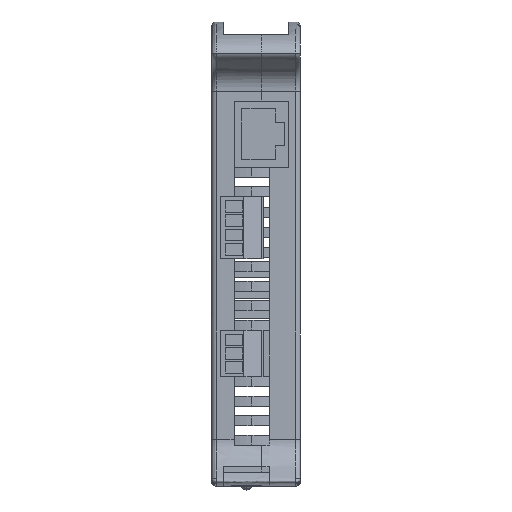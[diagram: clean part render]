
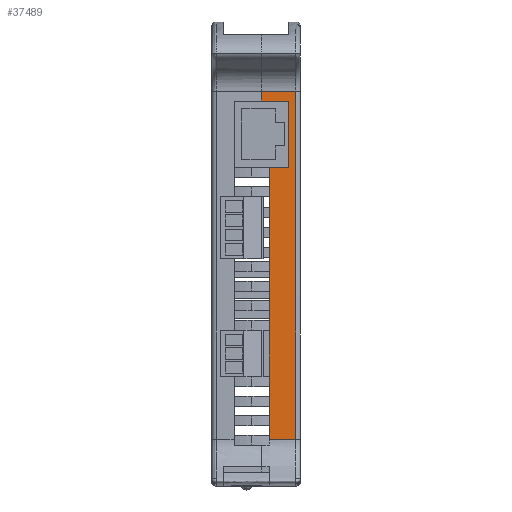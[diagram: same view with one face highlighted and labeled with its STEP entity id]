
A CAD part, left-side view. The second image highlights one B-rep face of the part: STEP entity #37489.
In plain terms, the highlighted planar face has unit normal (-1, 0, 0) as drawn and (0, 0, -1) by its records, which use the part's own axes.
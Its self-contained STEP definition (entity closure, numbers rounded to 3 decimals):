
#41 = CARTESIAN_POINT ( 'NONE',  ( 0., 3., -41.5 ) ) ;
#403 = CARTESIAN_POINT ( 'NONE',  ( -39.238, 3., -41.5 ) ) ;
#458 = EDGE_CURVE ( 'NONE', #3624, #40399, #15854, .T. ) ;
#856 = EDGE_CURVE ( 'NONE', #39176, #17218, #29270, .T. ) ;
#2243 = ORIENTED_EDGE ( 'NONE', *, *, #11189, .T. ) ;
#2428 = DIRECTION ( 'NONE',  ( 0., 1., 0. ) ) ;
#3624 = VERTEX_POINT ( 'NONE', #38248 ) ;
#4318 = ORIENTED_EDGE ( 'NONE', *, *, #30282, .F. ) ;
#4527 = CARTESIAN_POINT ( 'NONE',  ( 0., 8., -41.5 ) ) ;
#5301 = CARTESIAN_POINT ( 'NONE',  ( 47.5, 5.625, -41.5 ) ) ;
#5411 = CARTESIAN_POINT ( 'NONE',  ( -41.722, 5.625, -41.5 ) ) ;
#6085 = EDGE_LOOP ( 'NONE', ( #12357, #9765, #19729, #40753, #4318, #25740, #25453, #2243 ) ) ;
#6093 = EDGE_CURVE ( 'NONE', #40399, #29053, #21497, .T. ) ;
#6497 = CARTESIAN_POINT ( 'NONE',  ( 47.5, 1.25, -41.5 ) ) ;
#6573 = FACE_OUTER_BOUND ( 'NONE', #6085, .T. ) ;
#6604 = DIRECTION ( 'NONE',  ( 1., 0., 0. ) ) ;
#7594 = VECTOR ( 'NONE', #2428, 1000. ) ;
#8380 = DIRECTION ( 'NONE',  ( 0., -1., 0. ) ) ;
#9765 = ORIENTED_EDGE ( 'NONE', *, *, #19954, .T. ) ;
#10114 = DIRECTION ( 'NONE',  ( -1., 0., 0. ) ) ;
#10342 = EDGE_CURVE ( 'NONE', #11258, #39176, #21524, .T. ) ;
#11189 = EDGE_CURVE ( 'NONE', #11258, #29412, #28405, .T. ) ;
#11258 = VERTEX_POINT ( 'NONE', #12300 ) ;
#11458 = LINE ( 'NONE', #38657, #14845 ) ;
#11541 = DIRECTION ( 'NONE',  ( 1., 0., 0. ) ) ;
#12300 = CARTESIAN_POINT ( 'NONE',  ( -41.722, 10., -41.5 ) ) ;
#12357 = ORIENTED_EDGE ( 'NONE', *, *, #17370, .T. ) ;
#12964 = DIRECTION ( 'NONE',  ( 0., 1., 0. ) ) ;
#12995 = CARTESIAN_POINT ( 'NONE',  ( 47.5, 8., -41.5 ) ) ;
#13626 = DIRECTION ( 'NONE',  ( 0., 0., -1. ) ) ;
#14061 = PLANE ( 'NONE',  #38754 ) ;
#14530 = DIRECTION ( 'NONE',  ( 1., 0., 0. ) ) ;
#14845 = VECTOR ( 'NONE', #8380, 1000. ) ;
#15477 = VECTOR ( 'NONE', #12964, 1000. ) ;
#15854 = LINE ( 'NONE', #33094, #15477 ) ;
#17218 = VERTEX_POINT ( 'NONE', #6497 ) ;
#17370 = EDGE_CURVE ( 'NONE', #29412, #18559, #11458, .T. ) ;
#18559 = VERTEX_POINT ( 'NONE', #403 ) ;
#18742 = LINE ( 'NONE', #5301, #7594 ) ;
#18832 = CARTESIAN_POINT ( 'NONE',  ( -22.238, 8., -41.5 ) ) ;
#19548 = CARTESIAN_POINT ( 'NONE',  ( 0., 1.25, -41.5 ) ) ;
#19729 = ORIENTED_EDGE ( 'NONE', *, *, #458, .T. ) ;
#19817 = CARTESIAN_POINT ( 'NONE',  ( -39.238, 10., -41.5 ) ) ;
#19954 = EDGE_CURVE ( 'NONE', #18559, #3624, #37279, .T. ) ;
#21497 = LINE ( 'NONE', #4527, #41340 ) ;
#21524 = LINE ( 'NONE', #5411, #37809 ) ;
#25315 = CARTESIAN_POINT ( 'NONE',  ( 0., 10., -41.5 ) ) ;
#25453 = ORIENTED_EDGE ( 'NONE', *, *, #10342, .F. ) ;
#25740 = ORIENTED_EDGE ( 'NONE', *, *, #856, .F. ) ;
#27517 = CARTESIAN_POINT ( 'NONE',  ( 0., 10., -41.5 ) ) ;
#28405 = LINE ( 'NONE', #25315, #31736 ) ;
#29053 = VERTEX_POINT ( 'NONE', #12995 ) ;
#29270 = LINE ( 'NONE', #19548, #32424 ) ;
#29412 = VERTEX_POINT ( 'NONE', #19817 ) ;
#30282 = EDGE_CURVE ( 'NONE', #17218, #29053, #18742, .T. ) ;
#31736 = VECTOR ( 'NONE', #14530, 1000. ) ;
#32424 = VECTOR ( 'NONE', #40124, 1000. ) ;
#33094 = CARTESIAN_POINT ( 'NONE',  ( -22.238, 10., -41.5 ) ) ;
#37279 = LINE ( 'NONE', #41, #42070 ) ;
#37489 = ADVANCED_FACE ( 'NONE', ( #6573 ), #14061, .T. ) ;
#37809 = VECTOR ( 'NONE', #39214, 1000. ) ;
#38248 = CARTESIAN_POINT ( 'NONE',  ( -22.238, 3., -41.5 ) ) ;
#38657 = CARTESIAN_POINT ( 'NONE',  ( -39.238, 10., -41.5 ) ) ;
#38754 = AXIS2_PLACEMENT_3D ( 'NONE', #27517, #13626, #10114 ) ;
#39176 = VERTEX_POINT ( 'NONE', #39411 ) ;
#39214 = DIRECTION ( 'NONE',  ( 0., -1., 0. ) ) ;
#39411 = CARTESIAN_POINT ( 'NONE',  ( -41.722, 1.25, -41.5 ) ) ;
#40124 = DIRECTION ( 'NONE',  ( 1., 0., 0. ) ) ;
#40399 = VERTEX_POINT ( 'NONE', #18832 ) ;
#40753 = ORIENTED_EDGE ( 'NONE', *, *, #6093, .T. ) ;
#41340 = VECTOR ( 'NONE', #11541, 1000. ) ;
#42070 = VECTOR ( 'NONE', #6604, 1000. ) ;
